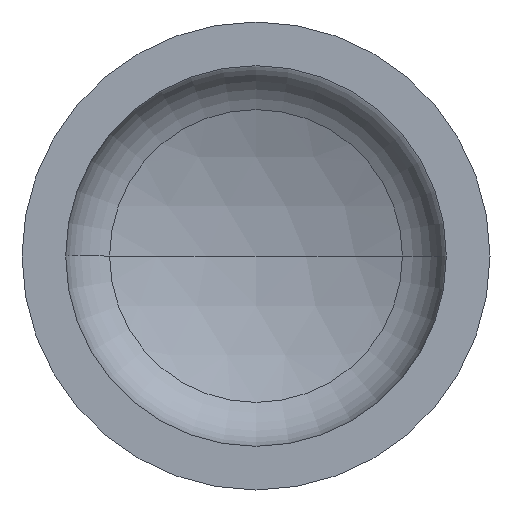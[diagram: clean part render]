
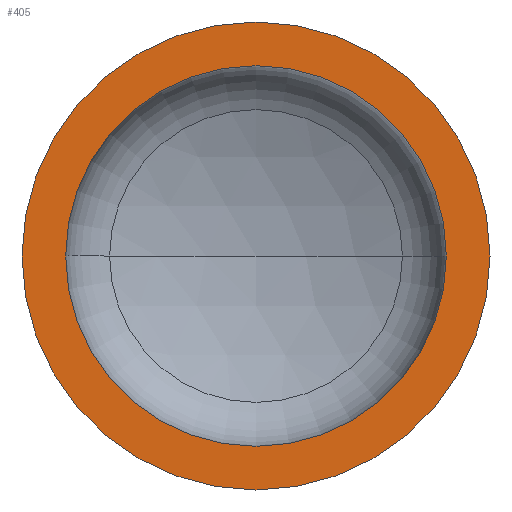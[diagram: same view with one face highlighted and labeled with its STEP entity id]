
A CAD part, front view. The second image highlights one B-rep face of the part: STEP entity #405.
In plain terms, the highlighted planar face has unit normal (0, -1, 0).
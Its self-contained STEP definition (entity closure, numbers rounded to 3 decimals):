
#10 = EDGE_LOOP ( 'NONE', ( #130, #104 ) ) ;
#13 = VERTEX_POINT ( 'NONE', #289 ) ;
#19 = AXIS2_PLACEMENT_3D ( 'NONE', #278, #190, #367 ) ;
#41 = ORIENTED_EDGE ( 'NONE', *, *, #131, .F. ) ;
#47 = EDGE_LOOP ( 'NONE', ( #41, #88 ) ) ;
#85 = AXIS2_PLACEMENT_3D ( 'NONE', #379, #306, #304 ) ;
#88 = ORIENTED_EDGE ( 'NONE', *, *, #335, .F. ) ;
#90 = AXIS2_PLACEMENT_3D ( 'NONE', #349, #345, #342 ) ;
#104 = ORIENTED_EDGE ( 'NONE', *, *, #128, .T. ) ;
#106 = VERTEX_POINT ( 'NONE', #244 ) ;
#108 = VERTEX_POINT ( 'NONE', #370 ) ;
#117 = CARTESIAN_POINT ( 'NONE',  ( 0., 0., 0. ) ) ;
#128 = EDGE_CURVE ( 'NONE', #108, #361, #353, .T. ) ;
#130 = ORIENTED_EDGE ( 'NONE', *, *, #356, .T. ) ;
#131 = EDGE_CURVE ( 'NONE', #106, #13, #398, .T. ) ;
#145 = FACE_BOUND ( 'NONE', #47, .T. ) ;
#156 = CARTESIAN_POINT ( 'NONE',  ( 600., 0., 0. ) ) ;
#172 = DIRECTION ( 'NONE',  ( 0., -1., 0. ) ) ;
#175 = DIRECTION ( 'NONE',  ( 1., 0., 0. ) ) ;
#177 = AXIS2_PLACEMENT_3D ( 'NONE', #302, #319, #192 ) ;
#190 = DIRECTION ( 'NONE',  ( 0., -1., 0. ) ) ;
#192 = DIRECTION ( 'NONE',  ( -1., 0., 0. ) ) ;
#243 = CIRCLE ( 'NONE', #366, 600. ) ;
#244 = CARTESIAN_POINT ( 'NONE',  ( 488., 0., 0. ) ) ;
#278 = CARTESIAN_POINT ( 'NONE',  ( 0., 0., 0. ) ) ;
#289 = CARTESIAN_POINT ( 'NONE',  ( -488., 0., 0. ) ) ;
#295 = PLANE ( 'NONE',  #177 ) ;
#302 = CARTESIAN_POINT ( 'NONE',  ( -600., 0., 0. ) ) ;
#304 = DIRECTION ( 'NONE',  ( 1., 0., 0. ) ) ;
#306 = DIRECTION ( 'NONE',  ( 0., -1., 0. ) ) ;
#311 = CIRCLE ( 'NONE', #19, 488. ) ;
#319 = DIRECTION ( 'NONE',  ( 0., 1., 0. ) ) ;
#335 = EDGE_CURVE ( 'NONE', #13, #106, #311, .T. ) ;
#336 = FACE_OUTER_BOUND ( 'NONE', #10, .T. ) ;
#342 = DIRECTION ( 'NONE',  ( 1., 0., 0. ) ) ;
#345 = DIRECTION ( 'NONE',  ( 0., -1., 0. ) ) ;
#349 = CARTESIAN_POINT ( 'NONE',  ( 0., 0., 0. ) ) ;
#353 = CIRCLE ( 'NONE', #90, 600. ) ;
#356 = EDGE_CURVE ( 'NONE', #361, #108, #243, .T. ) ;
#361 = VERTEX_POINT ( 'NONE', #156 ) ;
#366 = AXIS2_PLACEMENT_3D ( 'NONE', #117, #172, #175 ) ;
#367 = DIRECTION ( 'NONE',  ( 1., 0., 0. ) ) ;
#370 = CARTESIAN_POINT ( 'NONE',  ( -600., 0., 0. ) ) ;
#379 = CARTESIAN_POINT ( 'NONE',  ( 0., 0., 0. ) ) ;
#398 = CIRCLE ( 'NONE', #85, 488. ) ;
#405 = ADVANCED_FACE ( 'NONE', ( #145, #336 ), #295, .F. ) ;
